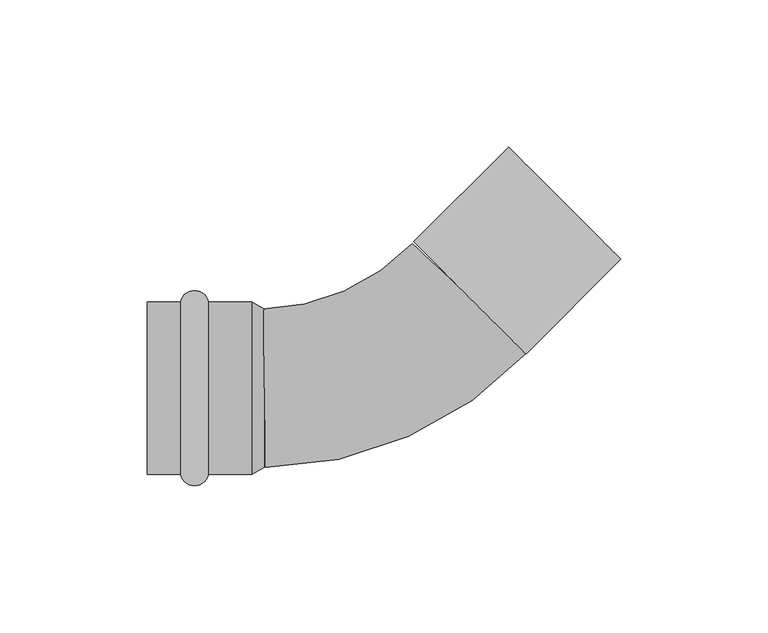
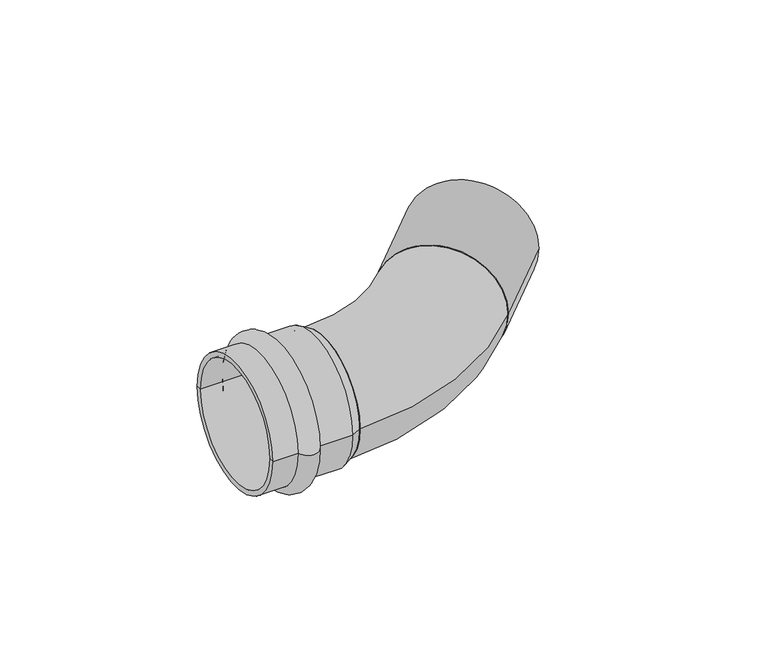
"""IFC4 building model written with IfcOpenShell, lengths in millimetres: pipe fitting geometry, VALTEC_VTi.958.I_Угольник 45° (раструб–труба) нержавеющая сталь. : VTi.958.I."""

import ifcopenshell
import ifcopenshell.guid

model = None  # the IFC model being written
_history = None  # IfcOwnerHistory: only IFC2X3 demands one
_inside = {}  # id of a spatial element -> (the spatial element, [elements in it])
_under = {}  # id of a project, library or spatial element -> (it, [spatial elements below it])
_declared = {}  # id of a project -> (the project, [libraries it declares])
_typed = {}  # id of a type object -> (the type object, [elements of that type])
_made_of = {}  # id of a material, layer set ... -> (it, [elements and type objects made of it])


def new_model(schema):
    """Start an empty IFC model of exactly this schema.

    Asked for "IFC4X3", IfcOpenShell would pick the latest addendum, in which some entities
    have other attributes; the version numbers below select the first issue.
    IFC2X3 requires an IfcOwnerHistory on every rooted entity: one is made here for all.
    """
    global model, _history
    if schema == "IFC4X3":
        model = ifcopenshell.file(schema_version=(4, 3, 0, 0))
    else:
        model = ifcopenshell.file(schema=schema)
    _inside.clear()
    _under.clear()
    _declared.clear()
    _typed.clear()
    _made_of.clear()
    _history = None
    if model.schema == "IFC2X3":
        org = make("IfcOrganization", Name="unknown")
        user = make(
            "IfcPersonAndOrganization",
            ThePerson=make("IfcPerson", FamilyName="unknown"),
            TheOrganization=org,
        )
        app = make(
            "IfcApplication",
            ApplicationDeveloper=org,
            Version="unknown",
            ApplicationFullName="unknown",
            ApplicationIdentifier="unknown",
        )
        _history = make(
            "IfcOwnerHistory",
            OwningUser=user,
            OwningApplication=app,
            ChangeAction="ADDED",
            CreationDate=0,
        )
    return model


def make(cls, **values):
    """One entity of the class cls with the attributes given. An attribute that is None is left unset."""
    return model.create_entity(
        cls, **{name: value for name, value in values.items() if value is not None}
    )


def rooted(cls, **values):
    """An entity with a GlobalId (a new one), such as an element, a storey or a relation."""
    return make(cls, GlobalId=ifcopenshell.guid.new(), OwnerHistory=_history, **values)


def si_unit(unit_type, name, prefix=None):
    """IfcSIUnit, for example si_unit("LENGTHUNIT", "METRE", prefix="MILLI")."""
    return make("IfcSIUnit", UnitType=unit_type, Prefix=prefix, Name=name)


def assignment(units):
    """IfcUnitAssignment: the units of a project."""
    return None if units is None else make("IfcUnitAssignment", Units=units)


def point(xyz):
    """IfcCartesianPoint."""
    return None if xyz is None else make("IfcCartesianPoint", Coordinates=xyz)


def direction(xyz):
    """IfcDirection."""
    return None if xyz is None else make("IfcDirection", DirectionRatios=xyz)


def frame(location, z_axis=None, x_axis=None):
    """IfcAxis2Placement3D, a coordinate frame: its origin and axes. An axis left out is left unset."""
    return make(
        "IfcAxis2Placement3D",
        Location=point(location),
        Axis=direction(z_axis),
        RefDirection=direction(x_axis),
    )


def frame_2d(location, x_axis=None):
    """IfcAxis2Placement2D, a coordinate frame in the plane: its origin and x axis."""
    return make(
        "IfcAxis2Placement2D", Location=point(location), RefDirection=direction(x_axis)
    )


def origin():
    """The frame at (0, 0, 0) with its axes left unset."""
    return frame((0.0, 0.0, 0.0))


def origin_2d():
    """The frame at (0, 0) in the plane with its x axis left unset."""
    return frame_2d((0.0, 0.0))


def place(relative_to, where):
    """IfcLocalPlacement: puts the frame where relative to a parent placement (None: the world)."""
    return make(
        "IfcLocalPlacement", PlacementRelTo=relative_to, RelativePlacement=where
    )


def context(
    kind, dimensions, precision=None, world=None, true_north=None, identifier=None
):
    """IfcGeometricRepresentationContext, for example the 3D "Model" context."""
    return make(
        "IfcGeometricRepresentationContext",
        ContextIdentifier=identifier,
        ContextType=kind,
        CoordinateSpaceDimension=dimensions,
        Precision=precision,
        WorldCoordinateSystem=world,
        TrueNorth=true_north,
    )


def project(units=None, contexts=None):
    """IfcProject with its units and contexts."""
    return rooted(
        "IfcProject",
        Name="project",
        RepresentationContexts=contexts,
        UnitsInContext=assignment(units),
    )


def spatial(cls, under=None, at=None, **own):
    """A site, building, storey or space (cls), placed at a placement, below another one or the project."""
    s = rooted(cls, ObjectPlacement=at, **own)
    if under is not None:
        _under.setdefault(under.id(), (under, []))[1].append(s)
    return s


def polyline(points):
    """IfcPolyline through the points."""
    return make("IfcPolyline", Points=[point(p) for p in points])


def circle_curve(where, radius):
    """IfcCircle in the frame where."""
    return make("IfcCircle", Position=where, Radius=radius)


def ellipse_curve(where, semi_axis1, semi_axis2):
    """IfcEllipse in the frame where."""
    return make(
        "IfcEllipse", Position=where, SemiAxis1=semi_axis1, SemiAxis2=semi_axis2
    )


def trimmed(basis, trim1, trim2, sense, master):
    """IfcTrimmedCurve: the piece of a basis curve between two trims."""
    return make(
        "IfcTrimmedCurve",
        BasisCurve=basis,
        Trim1=trim1,
        Trim2=trim2,
        SenseAgreement=sense,
        MasterRepresentation=master,
    )


def segment(curve, same_sense, transition):
    """IfcCompositeCurveSegment."""
    return make(
        "IfcCompositeCurveSegment",
        Transition=transition,
        SameSense=same_sense,
        ParentCurve=curve,
    )


def composite_curve(segments, self_intersect=None):
    """IfcCompositeCurve: segments joined end to end."""
    return make("IfcCompositeCurve", Segments=segments, SelfIntersect=self_intersect)


def outline(outer, holes=None, kind="AREA"):
    """IfcArbitraryClosedProfileDef: a profile drawn as a closed curve; with holes, ...WithVoids."""
    if holes is None:
        return make("IfcArbitraryClosedProfileDef", ProfileType=kind, OuterCurve=outer)
    return make(
        "IfcArbitraryProfileDefWithVoids",
        ProfileType=kind,
        OuterCurve=outer,
        InnerCurves=holes,
    )


def extrude(swept, where, along, depth):
    """IfcExtrudedAreaSolid: the profile swept, set in the frame where, extruded along a direction by depth."""
    return make(
        "IfcExtrudedAreaSolid",
        SweptArea=swept,
        Position=where,
        ExtrudedDirection=direction(along),
        Depth=depth,
    )


def shape(context_of_items, identifier, shape_type, items):
    """IfcShapeRepresentation: the items that make up one representation, for example the "Body"."""
    return make(
        "IfcShapeRepresentation",
        ContextOfItems=context_of_items,
        RepresentationIdentifier=identifier,
        RepresentationType=shape_type,
        Items=items,
    )


def source(mapping_origin, context_of_items, identifier, shape_type, items):
    """IfcRepresentationMap: a shape defined once, which mapped items show again and again."""
    return make(
        "IfcRepresentationMap",
        MappingOrigin=mapping_origin,
        MappedRepresentation=shape(context_of_items, identifier, shape_type, items),
    )


def transform(
    local_origin,
    x_axis=None,
    y_axis=None,
    z_axis=None,
    scale=None,
    scale2=None,
    scale3=None,
    uniform=True,
):
    """IfcCartesianTransformationOperator3D, or its non-uniform kind. x_axis, y_axis, z_axis: its Axis1, 2, 3."""
    if uniform:
        return make(
            "IfcCartesianTransformationOperator3D",
            Axis1=direction(x_axis),
            Axis2=direction(y_axis),
            LocalOrigin=point(local_origin),
            Scale=scale,
            Axis3=direction(z_axis),
        )
    return make(
        "IfcCartesianTransformationOperator3DnonUniform",
        Axis1=direction(x_axis),
        Axis2=direction(y_axis),
        LocalOrigin=point(local_origin),
        Scale=scale,
        Axis3=direction(z_axis),
        Scale2=scale2,
        Scale3=scale3,
    )


def mapped(mapping_source, mapping_target):
    """IfcMappedItem: shows the shape of a source again, moved by a transform."""
    return make(
        "IfcMappedItem", MappingSource=mapping_source, MappingTarget=mapping_target
    )


def made_of(thing, what):
    """Note that an element or type object is made of a material, layer set ...; save() writes the relation."""
    if what is not None:
        _made_of.setdefault(what.id(), (what, []))[1].append(thing)
    return thing


def element(
    cls,
    number,
    at=None,
    inside=None,
    cuts=None,
    type_object=None,
    material=None,
    context=None,
    identifier="Body",
    shape_type=None,
    held_by="IfcProductDefinitionShape",
    body=None,
    shapes=None,
    **own,
):
    """One element of the class cls, such as IfcWall. Its Tag is "e" and its number.

    at: its placement. inside: the storey or other place that contains it. cuts: it is an
    opening in that element (IfcRelVoidsElement). A single representation is given by context,
    identifier, shape_type and body (its items); several are given by shapes. held_by: the class
    of the entity that holds the representations. save() writes the other relations.
    """
    e = rooted(cls, Tag="e%d" % number, ObjectPlacement=at, **own)
    if body is not None:
        shapes = [shape(context, identifier, shape_type, body)]
    if shapes is not None:
        e.Representation = make(held_by, Representations=shapes)
    if inside is not None:
        _inside.setdefault(inside.id(), (inside, []))[1].append(e)
    if cuts is not None:
        rooted(
            "IfcRelVoidsElement", RelatingBuildingElement=cuts, RelatedOpeningElement=e
        )
    if type_object is not None:
        _typed.setdefault(type_object.id(), (type_object, []))[1].append(e)
    return made_of(e, material)


def aggregate(whole, parts):
    """IfcRelAggregates: a whole, such as a stair, and the parts it consists of."""
    return rooted("IfcRelAggregates", RelatingObject=whole, RelatedObjects=parts)


def save(model, path):
    """Write the relations noted so far, then the file.

    IfcRelAggregates (storeys below a building ...), IfcRelContainedInSpatialStructure (elements
    in a storey), IfcRelDefinesByType, IfcRelAssociatesMaterial and IfcRelDeclares: one each for
    every whole, place, type object, material and project.
    """
    for whole, parts in _under.values():
        aggregate(whole, parts)
    for where, things in _inside.values():
        rooted(
            "IfcRelContainedInSpatialStructure",
            RelatedElements=things,
            RelatingStructure=where,
        )
    for kind, things in _typed.values():
        rooted("IfcRelDefinesByType", RelatedObjects=things, RelatingType=kind)
    for what, things in _made_of.values():
        rooted("IfcRelAssociatesMaterial", RelatedObjects=things, RelatingMaterial=what)
    for by, libraries in _declared.values():
        rooted("IfcRelDeclares", RelatingContext=by, RelatedDefinitions=libraries)
    model.write(path)


def plane_surface(at):
    """IfcPlane: the flat surface through the origin of the frame at, square to its z axis."""
    return make("IfcPlane", Position=at)


def cylinder_surface(at, radius):
    """IfcCylindricalSurface: all points at the distance radius from the z axis of the frame at."""
    return make("IfcCylindricalSurface", Position=at, Radius=radius)


def revolved_surface(curve, axis_point, axis_direction):
    """IfcSurfaceOfRevolution: the curve turned about the line through axis_point along axis_direction."""
    return make(
        "IfcSurfaceOfRevolution",
        SweptCurve=make("IfcArbitraryOpenProfileDef", ProfileType="CURVE", Curve=curve),
        AxisPosition=make("IfcAxis1Placement", Location=point(axis_point), Axis=direction(axis_direction)),
    )


def advanced_brep(points, edges, surfaces, faces):
    """IfcAdvancedBrep: a solid bounded by faces that lie on surfaces and meet in shared edges.

    An edge is (start, end): straight between two places in points (the first is 0);
    or (start, end, curve); or (start, end, curve, False) where it runs against its curve.
    A face is (place in surfaces, loops), or (place, loops, False) where it looks against
    its surface's normal. A loop lists edges by number (the first is 1), with a minus sign
    where the edge is run from its end to its start. The first loop is the outer one.
    """
    corners = [point(p) for p in points]
    vertices = [make("IfcVertexPoint", VertexGeometry=c) for c in corners]
    made = []
    for start, end, *more in edges:
        made.append(
            make(
                "IfcEdgeCurve",
                EdgeStart=vertices[start],
                EdgeEnd=vertices[end],
                EdgeGeometry=more[0] if more else make("IfcPolyline", Points=[corners[start], corners[end]]),
                SameSense=more[1] if len(more) > 1 else True,
            )
        )
    hull = []
    for where, loops, *sense in faces:
        bounds = []
        for j, loop in enumerate(loops):
            ring = [make("IfcOrientedEdge", EdgeElement=made[abs(k) - 1], Orientation=k > 0) for k in loop]
            bounds.append(
                make(
                    "IfcFaceOuterBound" if j == 0 else "IfcFaceBound",
                    Bound=make("IfcEdgeLoop", EdgeList=ring),
                    Orientation=True,
                )
            )
        hull.append(make("IfcAdvancedFace", Bounds=bounds, FaceSurface=surfaces[where], SameSense=sense[0] if sense else True))
    return make("IfcAdvancedBrep", Outer=make("IfcClosedShell", CfsFaces=hull))


def pipe_fitting_fae99d99(model_context):
    return source(origin(), model_context, "Body", "SolidModel", [
        advanced_brep(
        [(-67.6148701, -29.3, 0.0), (-67.6148701, 29.3, 0.0), (-58.1851299, 29.3, 0.0), (-58.1851299, -29.3, 0.0), (-79.0, -29.3, 0.0), (-79.0, 29.3, 0.0), (-79.0, -27.0, 0.0), (-79.0, 27.0, 0.0), (-43.45, -27.0, 0.0), (-43.45, 27.0, 0.0), (-43.45, -29.3, 0.0), (-43.45, 29.3, 0.0)],
        [
            (0, 1, circle_curve(frame((-67.6148701, 0.0, 0.0), z_axis=(1.0, 0.0, 0.0), x_axis=(0.0, 1.0, 0.0)), 29.3)),
            (1, 2, circle_curve(frame((-62.9, 28.4, 0.0), z_axis=(0.0, 0.0, -1.0), x_axis=(1.0, 0.0, 0.0)), 4.8)),
            (2, 3, circle_curve(frame((-58.1851299, 0.0, 0.0), z_axis=(-1.0, 0.0, 0.0), x_axis=(0.0, 1.0, 0.0)), 29.3)),
            (3, 0, circle_curve(frame((-62.9, -28.4, 0.0), z_axis=(0.0, 0.0, -1.0), x_axis=(1.0, 0.0, 0.0)), 4.8)),
            (1, 0, circle_curve(frame((-67.6148701, 0.0, 0.0), z_axis=(1.0, 0.0, 0.0), x_axis=(0.0, 1.0, 0.0)), 29.3)),
            (3, 2, circle_curve(frame((-58.1851299, 0.0, 0.0), z_axis=(-1.0, 0.0, 0.0), x_axis=(0.0, 1.0, 0.0)), 29.3)),
            (4, 5, circle_curve(frame((-79.0, 0.0, 0.0), z_axis=(1.0, 0.0, 0.0), x_axis=(0.0, 1.0, 0.0)), 29.3)),
            (5, 1),
            (0, 4),
            (5, 4, circle_curve(frame((-79.0, 0.0, 0.0), z_axis=(1.0, 0.0, 0.0), x_axis=(0.0, 1.0, 0.0)), 29.3)),
            (6, 7, circle_curve(frame((-79.0, 0.0, 0.0), z_axis=(1.0, 0.0, 0.0), x_axis=(0.0, 1.0, 0.0)), 27.0)),
            (7, 5),
            (4, 6),
            (7, 6, circle_curve(frame((-79.0, 0.0, 0.0), z_axis=(1.0, 0.0, 0.0), x_axis=(0.0, 1.0, 0.0)), 27.0)),
            (8, 9, circle_curve(frame((-43.45, 0.0, 0.0), z_axis=(1.0, 0.0, 0.0), x_axis=(0.0, 1.0, 0.0)), 27.0)),
            (9, 7),
            (6, 8),
            (9, 8, circle_curve(frame((-43.45, 0.0, 0.0), z_axis=(1.0, 0.0, 0.0), x_axis=(0.0, 1.0, 0.0)), 27.0)),
            (10, 11, circle_curve(frame((-43.45, 0.0, 0.0), z_axis=(1.0, 0.0, 0.0), x_axis=(0.0, 1.0, 0.0)), 29.3)),
            (11, 9),
            (8, 10),
            (11, 10, circle_curve(frame((-43.45, 0.0, 0.0), z_axis=(1.0, 0.0, 0.0), x_axis=(0.0, 1.0, 0.0)), 29.3)),
            (2, 11),
            (10, 3),
        ],
        [
            revolved_surface(trimmed(ellipse_curve(frame((-62.9, 28.4, 0.0), z_axis=(0.0, 0.0, 1.0), x_axis=(1.0, 0.0, 0.0)), 4.8, 4.8), [point((-58.1851299, 29.3, 0.0))], [point((-67.6148701, 29.3, 0.0))], True, "CARTESIAN"), (-82.5364426, 0.0, 0.0), (-1.0, 0.0, 0.0)),
            cylinder_surface(frame((-82.5364426, 0.0, 0.0), z_axis=(-1.0, 0.0, 0.0), x_axis=(0.0, 1.0, 0.0)), 29.3),
            plane_surface(frame((-79.0, 0.0, 0.0), z_axis=(-1.0, 0.0, 0.0), x_axis=(0.0, 1.0, 0.0))),
            revolved_surface(polyline([(-79.0, 27.0, 0.0), (-43.45, 27.0, 0.0)]), (-82.5364426, 0.0, 0.0), (-1.0, 0.0, 0.0)),
            plane_surface(frame((-43.45, 0.0, 0.0), z_axis=(1.0, 0.0, 0.0), x_axis=(0.0, 1.0, 0.0))),
        ],
        [
            (0, [[1, 2, 3, 4]]),
            (0, [[5, -4, 6, -2]]),
            (1, [[7, 8, -1, 9]]),
            (1, [[10, -9, -5, -8]]),
            (2, [[11, 12, -7, 13]]),
            (2, [[14, -13, -10, -12]]),
            (3, [[15, 16, -11, 17]]),
            (3, [[18, -17, -14, -16]]),
            (4, [[19, 20, -15, 21]]),
            (4, [[22, -21, -18, -20]]),
            (1, [[-3, 23, -19, 24]]),
            (1, [[-6, -24, -22, -23]]),
        ],
    ),
        extrude(outline(composite_curve([segment(trimmed(circle_curve(origin_2d(), 27.0), [point((0.0, -26.9999999))], [point((0.0, 26.9999999))], False, "CARTESIAN"), True, "CONTINUOUS"), segment(trimmed(circle_curve(origin_2d(), 27.0), [point((0.0, 26.9999999))], [point((0.0, -26.9999999))], False, "CARTESIAN"), True, "CONTINUOUS")], self_intersect=False)), frame((30.7237896, 30.7237896, 0.0), z_axis=(0.7071067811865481, 0.7071067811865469, 0.0), x_axis=(0.0, 0.0, 1.0)), (0.0, 0.0, 1.0), 45.55),
        advanced_brep(
        [(-38.7575692, -26.9977646, 0.0), (-39.4524308, 26.9977646, 0.0), (50.3931928, 12.22745, 0.0), (11.0543865, 49.2201293, 0.0)],
        [
            (0, 1, circle_curve(frame((-39.105, 0.0, 0.0), z_axis=(-0.9999172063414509, -0.012867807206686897, 0.0), x_axis=(-0.012867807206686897, 0.9999172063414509, 0.0)), 27.0)),
            (1, 0, circle_curve(frame((-39.105, 0.0, 0.0), z_axis=(-0.9999172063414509, -0.012867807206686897, 0.0), x_axis=(-0.012867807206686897, 0.9999172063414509, 0.0)), 27.0)),
            (2, 3, circle_curve(frame((30.7237896, 30.7237896, 0.0), z_axis=(0.6850496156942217, 0.728496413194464, 0.0), x_axis=(-0.728496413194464, 0.6850496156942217, 0.0)), 27.0)),
            (3, 2, circle_curve(frame((30.7237896, 30.7237896, 0.0), z_axis=(0.6850496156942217, 0.728496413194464, 0.0), x_axis=(-0.728496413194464, 0.6850496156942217, 0.0)), 27.0)),
            (3, 1, circle_curve(frame((-40.3606002, 97.5687775, 0.0), z_axis=(0.0, 0.0, -1.0), x_axis=(0.01286780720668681, -0.9999172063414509, 0.0)), 70.5768563)),
            (0, 2, circle_curve(frame((-40.3606002, 97.5687775, 0.0), z_axis=(0.0, 0.0, 1.0), x_axis=(0.01286780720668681, -0.9999172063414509, 0.0)), 124.5768563)),
        ],
        [
            plane_surface(frame((-39.105, 0.0, 0.0), z_axis=(-0.999917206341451, -0.012867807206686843, 0.0), x_axis=(0.0, 0.0, 1.0))),
            plane_surface(frame((30.7237896, 30.7237896, 0.0), z_axis=(0.6850496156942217, 0.7284964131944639, 0.0), x_axis=(0.0, 0.0, 1.0))),
            revolved_surface(trimmed(ellipse_curve(frame((-39.105, 0.0, 0.0), z_axis=(-0.9999172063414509, -0.012867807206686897, 0.0), x_axis=(-0.012867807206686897, 0.9999172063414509, 0.0)), 27.0, 27.0), [point((-38.7575692, -26.9977646, 0.0))], [point((-39.4524308, 26.9977646, 0.0))], True, "CARTESIAN"), (-40.3606002, 97.5687775, 0.0), (0.0, 0.0, 1.0)),
            revolved_surface(trimmed(ellipse_curve(frame((-39.105, 0.0, 0.0), z_axis=(-0.9999172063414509, -0.012867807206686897, 0.0), x_axis=(-0.012867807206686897, 0.9999172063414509, 0.0)), 27.0, 27.0), [point((-39.4524308, 26.9977646, 0.0))], [point((-38.7575692, -26.9977646, 0.0))], True, "CARTESIAN"), (-40.3606002, 97.5687775, 0.0), (0.0, 0.0, 1.0)),
        ],
        [
            (0, [[1, 2]]),
            (1, [[3, 4]]),
            (2, [[5, -1, 6, -4]]),
            (3, [[-6, -2, -5, -3]]),
        ],
    ),
        advanced_brep(
        [(-43.45, -29.3, 0.0), (-43.45, 29.3, 0.0), (-39.105, -27.0, 0.0), (-39.105, 27.0, 0.0)],
        [
            (0, 1, circle_curve(frame((-43.45, 0.0, 0.0), z_axis=(-1.0, 0.0, 0.0), x_axis=(0.0, -1.0, 0.0)), 29.3)),
            (1, 0, circle_curve(frame((-43.45, 0.0, 0.0), z_axis=(-1.0, 0.0, 0.0), x_axis=(0.0, 1.0, 0.0)), 29.3)),
            (2, 3, circle_curve(frame((-39.105, 0.0, 0.0), z_axis=(1.0, 0.0, 0.0), x_axis=(0.0, 1.0, 0.0)), 27.0)),
            (3, 2, circle_curve(frame((-39.105, 0.0, 0.0), z_axis=(1.0, 0.0, 0.0), x_axis=(0.0, -1.0, 0.0)), 27.0)),
            (2, 0),
            (1, 3),
        ],
        [
            plane_surface(frame((-43.45, 0.0, 0.0), z_axis=(-1.0, 0.0, 0.0), x_axis=(0.0, 0.0, -1.0))),
            plane_surface(frame((-39.105, 0.0, 0.0), z_axis=(1.0, 0.0, 0.0), x_axis=(0.0, 0.0, -1.0))),
            revolved_surface(polyline([(-39.10499999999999, -26.999999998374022, 0.0), (-43.45, -29.3, 0.0)]), (11.9015217, 0.0, 0.0), (-1.0, 0.0, 0.0)),
            revolved_surface(polyline([(-39.10499999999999, 26.999999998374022, 0.0), (-43.45, 29.3, 0.0)]), (11.9015217, 0.0, 0.0), (-1.0, 0.0, 0.0)),
        ],
        [
            (0, [[1, 2]]),
            (1, [[3, 4]]),
            (2, [[-3, 5, -2, 6]]),
            (3, [[-4, -6, -1, -5]]),
        ],
    ),
    ])


if __name__ == "__main__":
    model = new_model("IFC4")
    model_context = context("Model", 3, world=origin())
    ifc_project = project(units=[si_unit("LENGTHUNIT", "METRE", prefix="MILLI")], contexts=[model_context])
    site = spatial("IfcSite", under=ifc_project)
    building = spatial("IfcBuilding", under=site)
    placement = place(None, origin())
    pipe_fitting_shape = pipe_fitting_fae99d99(model_context)
    element("IfcPipeFitting", 1, ObjectType="VALTEC_VTi.958.I_Угольник 45° (раструб–труба) нержавеющая сталь. : VTi.958.I", at=placement, inside=building, context=model_context, shape_type="MappedRepresentation", body=[
        mapped(pipe_fitting_shape, transform((0.0, 0.0, 0.0), x_axis=(1.0, 0.0, 0.0), y_axis=(0.0, 1.0, 0.0), z_axis=(0.0, 0.0, 1.0))),
    ])
    save(model, "model.ifc")
